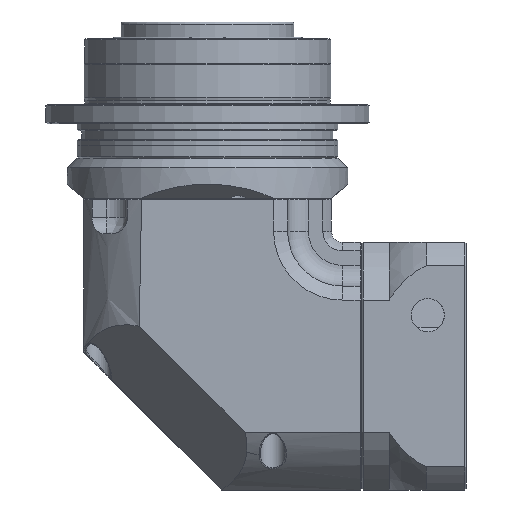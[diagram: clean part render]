
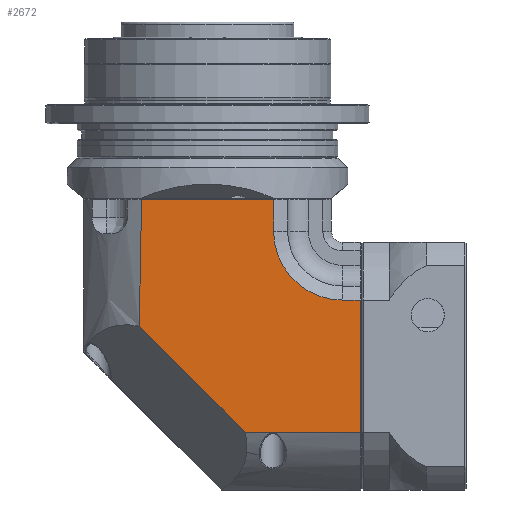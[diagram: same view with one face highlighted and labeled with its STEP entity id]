
A CAD part, left-side view. The second image highlights one B-rep face of the part: STEP entity #2672.
In plain terms, the highlighted planar face has unit normal (-1, 0, 0).
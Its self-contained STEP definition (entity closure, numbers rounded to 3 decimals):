
#234=B_SPLINE_CURVE_WITH_KNOTS('',3,(#17288,#17289,#17290,#17291,#17292,
#17293),.UNSPECIFIED.,.F.,.F.,(4,2,4),(0.,0.459,1.),
 .UNSPECIFIED.);
#538=FACE_OUTER_BOUND('',#4297,.T.);
#999=PLANE('',#11132);
#1443=LINE('',#17285,#1937);
#1444=LINE('',#17295,#1938);
#1445=LINE('',#17297,#1939);
#1446=LINE('',#17299,#1940);
#1447=LINE('',#17301,#1941);
#1448=LINE('',#17305,#1942);
#1937=VECTOR('',#13440,1.);
#1938=VECTOR('',#13441,1.);
#1939=VECTOR('',#13442,1.);
#1940=VECTOR('',#13443,1.);
#1941=VECTOR('',#13444,1.);
#1942=VECTOR('',#13447,1.);
#2672=ADVANCED_FACE('',(#538),#999,.F.);
#4297=EDGE_LOOP('',(#6237,#6238,#6239,#6240,#6241,#6242,#6243,#6244));
#6237=ORIENTED_EDGE('',*,*,#9230,.T.);
#6238=ORIENTED_EDGE('',*,*,#9231,.F.);
#6239=ORIENTED_EDGE('',*,*,#9232,.T.);
#6240=ORIENTED_EDGE('',*,*,#9233,.T.);
#6241=ORIENTED_EDGE('',*,*,#9234,.T.);
#6242=ORIENTED_EDGE('',*,*,#9235,.F.);
#6243=ORIENTED_EDGE('',*,*,#9236,.T.);
#6244=ORIENTED_EDGE('',*,*,#9237,.T.);
#8066=VERTEX_POINT('',#17286);
#8067=VERTEX_POINT('',#17287);
#8068=VERTEX_POINT('',#17294);
#8069=VERTEX_POINT('',#17296);
#8070=VERTEX_POINT('',#17298);
#8071=VERTEX_POINT('',#17300);
#8072=VERTEX_POINT('',#17302);
#8073=VERTEX_POINT('',#17304);
#9230=EDGE_CURVE('',#8066,#8067,#1443,.T.);
#9231=EDGE_CURVE('',#8068,#8067,#234,.T.);
#9232=EDGE_CURVE('',#8068,#8069,#1444,.T.);
#9233=EDGE_CURVE('',#8069,#8070,#1445,.T.);
#9234=EDGE_CURVE('',#8070,#8071,#1446,.T.);
#9235=EDGE_CURVE('',#8072,#8071,#1447,.T.);
#9236=EDGE_CURVE('',#8072,#8073,#10152,.T.);
#9237=EDGE_CURVE('',#8073,#8066,#1448,.T.);
#10152=CIRCLE('',#11131,25.);
#11131=AXIS2_PLACEMENT_3D('',#17303,#13445,#13446);
#11132=AXIS2_PLACEMENT_3D('',#17306,#13448,#13449);
#13440=DIRECTION('',(0.,1.,0.));
#13441=DIRECTION('',(0.,-0.707,-0.707));
#13442=DIRECTION('',(0.,-1.,0.));
#13443=DIRECTION('',(0.,0.,1.));
#13444=DIRECTION('',(0.,-1.,0.));
#13445=DIRECTION('',(1.,0.,0.));
#13446=DIRECTION('',(0.,0.,-1.));
#13447=DIRECTION('',(0.,0.,1.));
#13448=DIRECTION('',(1.,0.,0.));
#13449=DIRECTION('',(0.,0.,1.));
#17285=CARTESIAN_POINT('',(-45.,7.,2.5));
#17286=CARTESIAN_POINT('',(-45.,32.,2.5));
#17287=CARTESIAN_POINT('',(-45.,79.954,2.5));
#17288=CARTESIAN_POINT('',(-45.,80.797,-43.505));
#17289=CARTESIAN_POINT('',(-45.,80.669,-36.468));
#17290=CARTESIAN_POINT('',(-45.,80.541,-29.43));
#17291=CARTESIAN_POINT('',(-45.,80.261,-14.095));
#17292=CARTESIAN_POINT('',(-45.,80.108,-5.798));
#17293=CARTESIAN_POINT('',(-45.,79.954,2.5));
#17294=CARTESIAN_POINT('',(-45.,80.797,-43.505));
#17295=CARTESIAN_POINT('',(-45.,61.151,-63.151));
#17296=CARTESIAN_POINT('',(-45.,42.302,-82.));
#17297=CARTESIAN_POINT('',(-45.,101.,-82.));
#17298=CARTESIAN_POINT('',(-45.,0.5,-82.));
#17299=CARTESIAN_POINT('',(-45.,0.5,-9.));
#17300=CARTESIAN_POINT('',(-45.,0.5,-34.));
#17301=CARTESIAN_POINT('',(-45.,7.,-34.));
#17302=CARTESIAN_POINT('',(-45.,7.,-34.));
#17303=CARTESIAN_POINT('',(-45.,7.,-9.));
#17304=CARTESIAN_POINT('',(-45.,32.,-9.));
#17305=CARTESIAN_POINT('',(-45.,32.,-9.));
#17306=CARTESIAN_POINT('',(-45.,7.,-9.));
